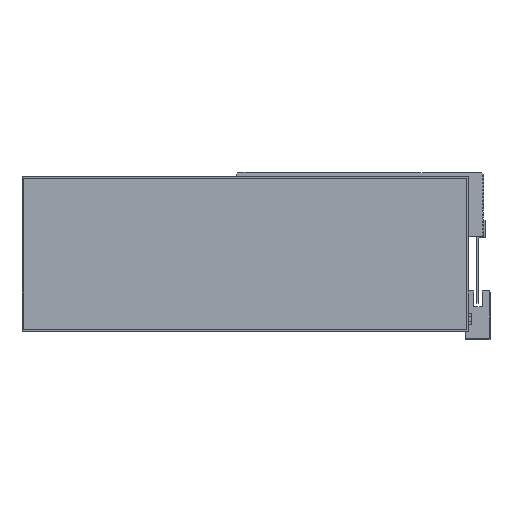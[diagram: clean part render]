
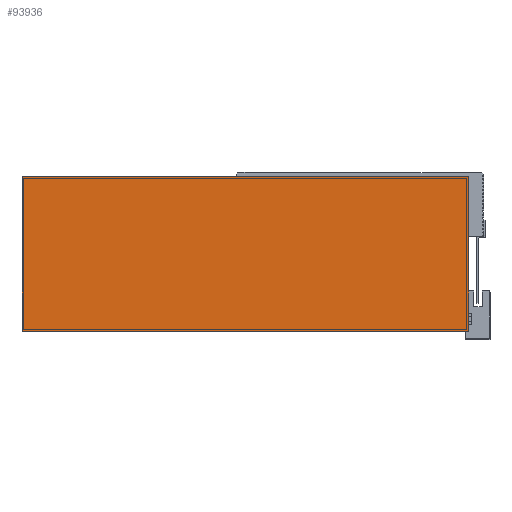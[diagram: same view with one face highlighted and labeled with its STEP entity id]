
A CAD part, top view. The second image highlights one B-rep face of the part: STEP entity #93936.
In plain terms, the highlighted planar face has unit normal (0, 0, 1) as drawn and (0, 0, -1) by its records, which use the part's own axes.
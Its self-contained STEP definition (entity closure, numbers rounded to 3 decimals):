
#308 = EDGE_CURVE ( 'NONE', #125738, #124660, #40760, .T. ) ;
#5561 = DIRECTION ( 'NONE',  ( 1., 0., 0. ) ) ;
#16770 = CARTESIAN_POINT ( 'NONE',  ( -126.25, 43.75, -1. ) ) ;
#17674 = CARTESIAN_POINT ( 'NONE',  ( -126.25, -43.75, -1. ) ) ;
#17775 = ORIENTED_EDGE ( 'NONE', *, *, #46967, .T. ) ;
#36116 = EDGE_CURVE ( 'NONE', #76216, #125738, #118212, .T. ) ;
#40760 = LINE ( 'NONE', #83425, #69081 ) ;
#41613 = VECTOR ( 'NONE', #63228, 1000. ) ;
#45224 = DIRECTION ( 'NONE',  ( 1., 0., 0. ) ) ;
#45496 = FACE_OUTER_BOUND ( 'NONE', #78389, .T. ) ;
#46967 = EDGE_CURVE ( 'NONE', #128024, #76216, #66599, .T. ) ;
#48737 = CARTESIAN_POINT ( 'NONE',  ( 126.25, 43.75, -1. ) ) ;
#59909 = ORIENTED_EDGE ( 'NONE', *, *, #94668, .T. ) ;
#63228 = DIRECTION ( 'NONE',  ( 0., 1., 0. ) ) ;
#66131 = CARTESIAN_POINT ( 'NONE',  ( -126.25, 43.75, -1. ) ) ;
#66599 = LINE ( 'NONE', #116537, #41613 ) ;
#69081 = VECTOR ( 'NONE', #77454, 1000. ) ;
#69475 = DIRECTION ( 'NONE',  ( 0., 0., 1. ) ) ;
#73430 = CARTESIAN_POINT ( 'NONE',  ( -126.25, -43.75, -1. ) ) ;
#75090 = VECTOR ( 'NONE', #137555, 1000. ) ;
#76216 = VERTEX_POINT ( 'NONE', #16770 ) ;
#77454 = DIRECTION ( 'NONE',  ( 0., -1., 0. ) ) ;
#78389 = EDGE_LOOP ( 'NONE', ( #17775, #101619, #120872, #59909 ) ) ;
#83425 = CARTESIAN_POINT ( 'NONE',  ( 126.25, 43.75, -1. ) ) ;
#93936 = ADVANCED_FACE ( 'NONE', ( #45496 ), #112020, .F. ) ;
#94668 = EDGE_CURVE ( 'NONE', #124660, #128024, #103528, .T. ) ;
#94832 = AXIS2_PLACEMENT_3D ( 'NONE', #122885, #69475, #5561 ) ;
#97104 = CARTESIAN_POINT ( 'NONE',  ( 126.25, -43.75, -1. ) ) ;
#101619 = ORIENTED_EDGE ( 'NONE', *, *, #36116, .T. ) ;
#103528 = LINE ( 'NONE', #73430, #75090 ) ;
#112020 = PLANE ( 'NONE',  #94832 ) ;
#114786 = VECTOR ( 'NONE', #45224, 1000. ) ;
#116537 = CARTESIAN_POINT ( 'NONE',  ( -126.25, 43.75, -1. ) ) ;
#118212 = LINE ( 'NONE', #66131, #114786 ) ;
#120872 = ORIENTED_EDGE ( 'NONE', *, *, #308, .T. ) ;
#122885 = CARTESIAN_POINT ( 'NONE',  ( 0., 0., -1. ) ) ;
#124660 = VERTEX_POINT ( 'NONE', #97104 ) ;
#125738 = VERTEX_POINT ( 'NONE', #48737 ) ;
#128024 = VERTEX_POINT ( 'NONE', #17674 ) ;
#137555 = DIRECTION ( 'NONE',  ( -1., 0., 0. ) ) ;
